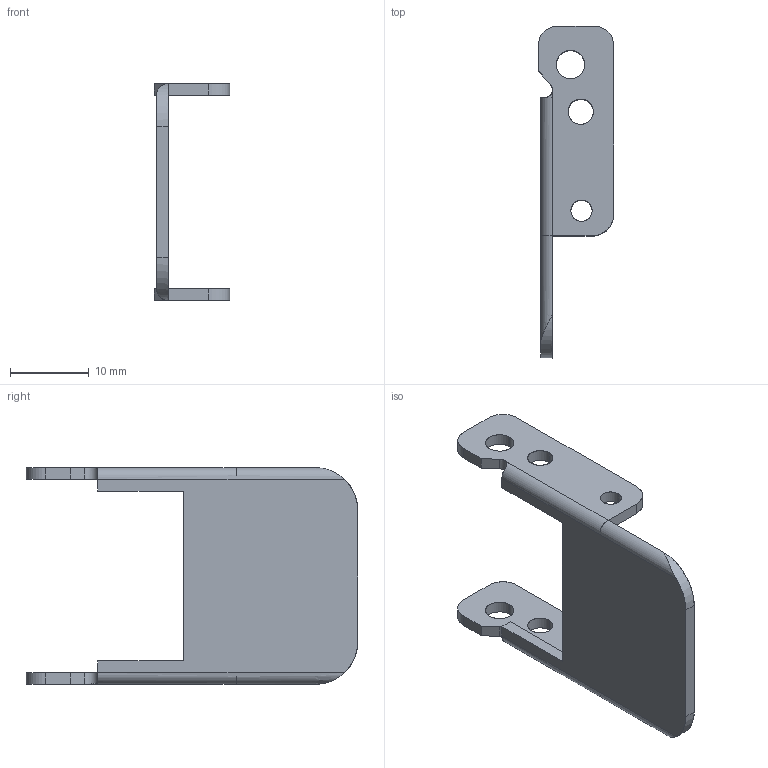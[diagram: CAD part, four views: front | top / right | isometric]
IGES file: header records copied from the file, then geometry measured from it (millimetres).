
Start section: SolidWorks IGES FILE using analytic representation for surfaces
Global section: file name: C:\Documents and Settings\brechard\Bureau\GP 12\12.010.10.IGS; native system: SolidWorks 2001Plus by SolidWorks Corporation; preprocessor: Version 5.3; author: brechard; date: 050126.144310; units: millimetre
Bounding box: 9.6 x 42.2 x 27.6 mm (x, y, z)
Surface area: 2461.4 mm2 (no closed solid volume)
Topology: 0 solids, 0 shells, 50 faces, 823 edges, 822 vertices
Faces by surface type: bspline 26, revolution 24
